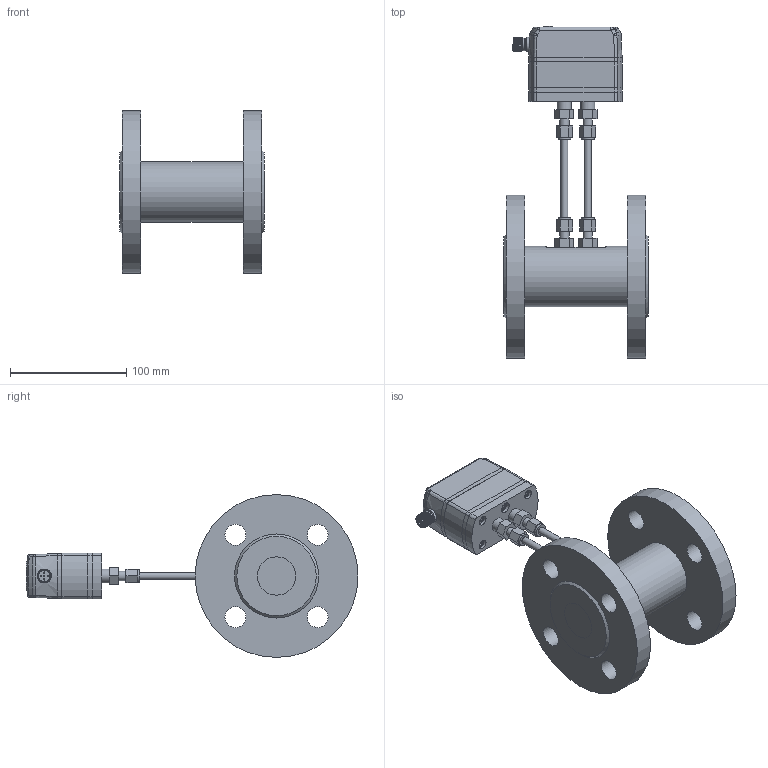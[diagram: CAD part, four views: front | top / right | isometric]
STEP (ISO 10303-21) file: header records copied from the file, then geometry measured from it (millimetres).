
FILE_DESCRIPTION( (''), '2;1');
FILE_NAME( 'QEKH_DN32_flange_capillary.step', '2025-04-29T16:06:49+08:00', (''), (''), '', '', '');
FILE_SCHEMA (('AUTOMOTIVE_DESIGN { 1 0 10303 214 3 1 1 1 }'));
Length unit declared in the file: millimetre
Products named in the file (1): QEKH DN32_flange_capillary
Bounding box: 124 x 285.4 x 140 mm (x, y, z)
Volume: 876072.6 mm3; surface area: 184900 mm2
Topology: 32 solids, 35 shells, 1602 faces, 3940 edges, 2529 vertices
Faces by surface type: plane 808, cylinder 302, extrusion 239, cone 144, torus 52, bspline 48, sphere 9
Full cylindrical faces by diameter (mm): 1 x10, 2.05 x4, 2.6 x4, 2.7 x5, 2.874 x4, 3 x4, 3.1 x1, 3.3 x8, 3.5 x7, 3.838 x6, 4.2 x2, 4.5 x12, 5 x2, 5.5 x10, 6 x6, 7 x6, 8 x8, 9 x2, 9.8 x2, 10.8 x1, 11 x4, 11.5 x2, 11.992 x2, 12 x12, 14 x2, 14.5 x2, 17 x2, 18 x8, 19.1 x6, 33 x4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
Entity records: 52639 total; most frequent: CARTESIAN_POINT 16637, ORIENTED_EDGE 7196, DIRECTION 6609, EDGE_CURVE 3598, VERTEX_POINT 2442, VECTOR 2219, AXIS2_PLACEMENT_3D 2195, EDGE_LOOP 2044
